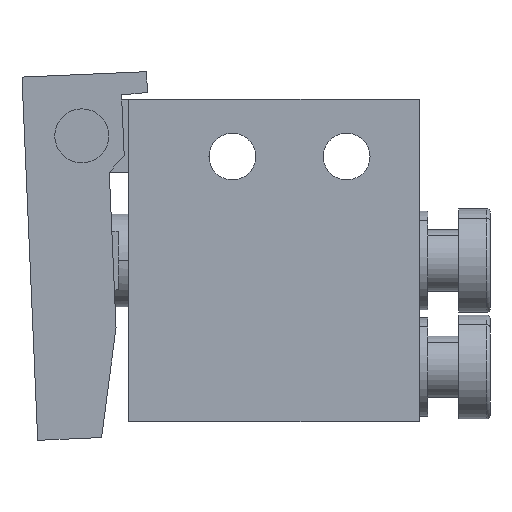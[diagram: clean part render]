
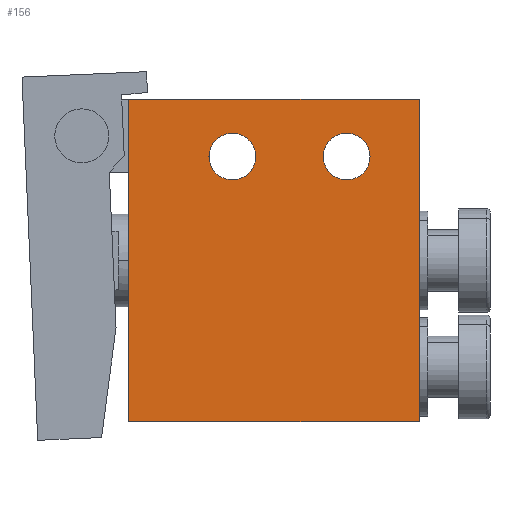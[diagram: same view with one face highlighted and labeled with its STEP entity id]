
A CAD part, left-side view. The second image highlights one B-rep face of the part: STEP entity #156.
In plain terms, the highlighted planar face has unit normal (-1, 0, 0).
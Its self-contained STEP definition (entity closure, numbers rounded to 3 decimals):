
#156=ADVANCED_FACE('NONE',(#382,#383,#384),#385,.F.);
#382=FACE_OUTER_BOUND('',#649,.T.);
#383=FACE_BOUND('',#650,.T.);
#384=FACE_BOUND('',#651,.T.);
#385=PLANE('',#652);
#649=EDGE_LOOP('',(#1375,#1376,#1377,#1378));
#650=EDGE_LOOP('',(#1379,#1380));
#651=EDGE_LOOP('',(#1381,#1382));
#652=AXIS2_PLACEMENT_3D('',#1383,#1384,#1385);
#1375=ORIENTED_EDGE('',*,*,#1857,.T.);
#1376=ORIENTED_EDGE('',*,*,#1851,.F.);
#1377=ORIENTED_EDGE('',*,*,#1858,.F.);
#1378=ORIENTED_EDGE('',*,*,#1859,.T.);
#1379=ORIENTED_EDGE('',*,*,#1860,.T.);
#1380=ORIENTED_EDGE('',*,*,#1784,.T.);
#1381=ORIENTED_EDGE('',*,*,#1861,.T.);
#1382=ORIENTED_EDGE('',*,*,#1788,.T.);
#1383=CARTESIAN_POINT('',(-8.0,28.0,15.5));
#1384=DIRECTION('',(1.0,0.,-0.0));
#1385=DIRECTION('',(0.,1.0,0.0));
#1784=EDGE_CURVE('NONE',#2165,#2166,#2167,.T.);
#1788=EDGE_CURVE('NONE',#2173,#2174,#2175,.T.);
#1851=EDGE_CURVE('NONE',#2278,#2273,#2280,.T.);
#1857=EDGE_CURVE('NONE',#2288,#2273,#2289,.T.);
#1858=EDGE_CURVE('NONE',#2290,#2278,#2291,.T.);
#1859=EDGE_CURVE('NONE',#2290,#2288,#2292,.T.);
#1860=EDGE_CURVE('NONE',#2166,#2165,#2293,.T.);
#1861=EDGE_CURVE('NONE',#2174,#2173,#2294,.T.);
#2165=VERTEX_POINT('NONE',#2739);
#2166=VERTEX_POINT('NONE',#2740);
#2167=CIRCLE('',#2741,2.25);
#2173=VERTEX_POINT('NONE',#2749);
#2174=VERTEX_POINT('NONE',#2750);
#2175=CIRCLE('',#2751,2.25);
#2273=VERTEX_POINT('NONE',#2867);
#2278=VERTEX_POINT('NONE',#2874);
#2280=LINE('',#2877,#2878);
#2288=VERTEX_POINT('NONE',#2889);
#2289=LINE('',#2890,#2891);
#2290=VERTEX_POINT('NONE',#2892);
#2291=LINE('',#2893,#2894);
#2292=LINE('',#2895,#2896);
#2293=CIRCLE('',#2897,2.25);
#2294=CIRCLE('',#2898,2.25);
#2739=CARTESIAN_POINT('',(-8.0,7.,12.25));
#2740=CARTESIAN_POINT('',(-8.0,7.,7.75));
#2741=AXIS2_PLACEMENT_3D('',#3341,#3342,#3343);
#2749=CARTESIAN_POINT('',(-8.0,18.0,12.25));
#2750=CARTESIAN_POINT('',(-8.0,18.0,7.75));
#2751=AXIS2_PLACEMENT_3D('',#3349,#3350,#3351);
#2867=CARTESIAN_POINT('',(-8.,0.0,-15.5));
#2874=CARTESIAN_POINT('',(-8.,0.0,15.5));
#2877=CARTESIAN_POINT('',(-8.,0.0,15.5));
#2878=VECTOR('',#3496,1000.0);
#2889=CARTESIAN_POINT('',(-8.0,28.0,-15.5));
#2890=CARTESIAN_POINT('',(-8.0,28.0,-15.5));
#2891=VECTOR('',#3506,1000.0);
#2892=CARTESIAN_POINT('',(-8.0,28.0,15.5));
#2893=CARTESIAN_POINT('',(-8.0,28.0,15.5));
#2894=VECTOR('',#3507,1000.0);
#2895=CARTESIAN_POINT('',(-8.0,28.0,15.5));
#2896=VECTOR('',#3508,1000.0);
#2897=AXIS2_PLACEMENT_3D('',#3509,#3510,#3511);
#2898=AXIS2_PLACEMENT_3D('',#3512,#3513,#3514);
#3341=CARTESIAN_POINT('',(-8.0,7.,10.0));
#3342=DIRECTION('',(1.0,0.0,0.0));
#3343=DIRECTION('',(0.0,0.0,-1.0));
#3349=CARTESIAN_POINT('',(-8.0,18.0,10.0));
#3350=DIRECTION('',(1.0,0.0,0.0));
#3351=DIRECTION('',(0.0,0.0,-1.0));
#3496=DIRECTION('',(-0.0,-0.0,-1.0));
#3506=DIRECTION('',(0.,-1.0,0.0));
#3507=DIRECTION('',(0.,-1.0,0.0));
#3508=DIRECTION('',(-0.0,-0.0,-1.0));
#3509=CARTESIAN_POINT('',(-8.0,7.,10.0));
#3510=DIRECTION('',(1.0,0.0,0.0));
#3511=DIRECTION('',(0.0,0.0,-1.0));
#3512=CARTESIAN_POINT('',(-8.0,18.0,10.0));
#3513=DIRECTION('',(1.0,0.0,0.0));
#3514=DIRECTION('',(0.0,0.0,-1.0));
